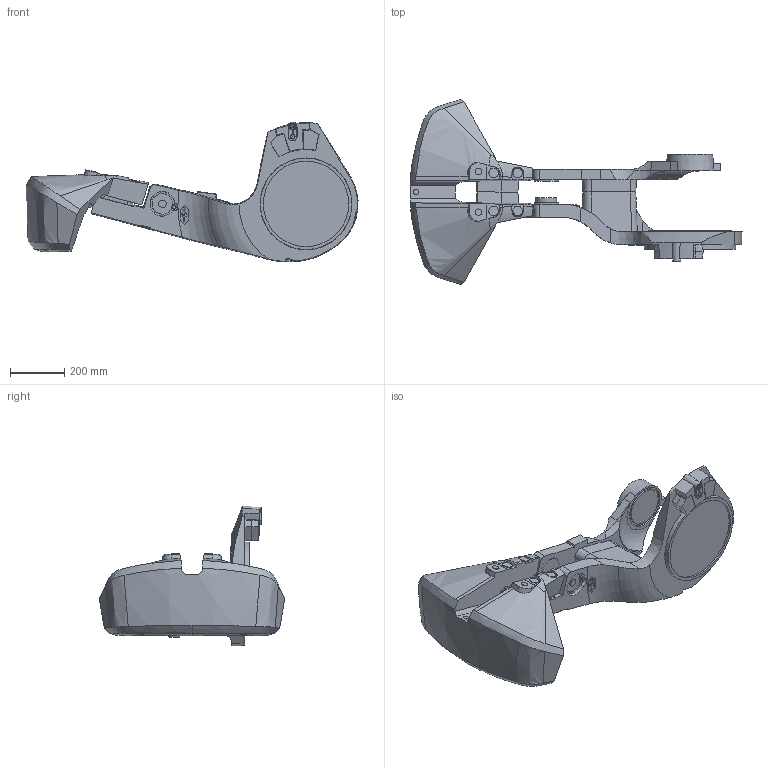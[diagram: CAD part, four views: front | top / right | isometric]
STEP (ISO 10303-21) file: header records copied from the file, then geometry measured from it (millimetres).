
FILE_DESCRIPTION (( 'STEP AP214' ), '1' );
FILE_NAME ('IRB7710_All_OC_00_LINKARM_CAD.step', '2026-01-28T10:08:26', ( '' ), ( '' ), 'SwSTEP 2.0', 'SolidWorks 2024', '' );
FILE_SCHEMA (( 'AUTOMOTIVE_DESIGN' ));
Length unit declared in the file: millimetre
Products named in the file (1): IRB7710_All_OC_00_LINKARM_CAD
Bounding box: 1225.16 x 685.64 x 516.58 mm (x, y, z)
Volume: 43341920.8 mm3; surface area: 1899136.1 mm2
Topology: 1 solids, 1 shells, 466 faces, 1185 edges, 786 vertices
Faces by surface type: plane 248, bspline 78, cone 62, cylinder 62, torus 12, sphere 4
Full cylindrical faces by diameter (mm): 4.8 x1, 12 x1, 14 x1, 16 x1, 17.9 x1, 18 x1, 20 x1, 24.33 x27, 25 x3, 26 x1, 28 x1, 36 x4, 59.95 x1, 60 x1, 77 x1, 315 x1
Entity records: 36645 total; most frequent: CARTESIAN_POINT 21564, ORIENTED_EDGE 2128, DIRECTION 1724, EDGE_CURVE 1064, VERTEX_POINT 735, AXIS2_PLACEMENT_3D 635, EDGE_LOOP 605, FACE_OUTER_BOUND 514
